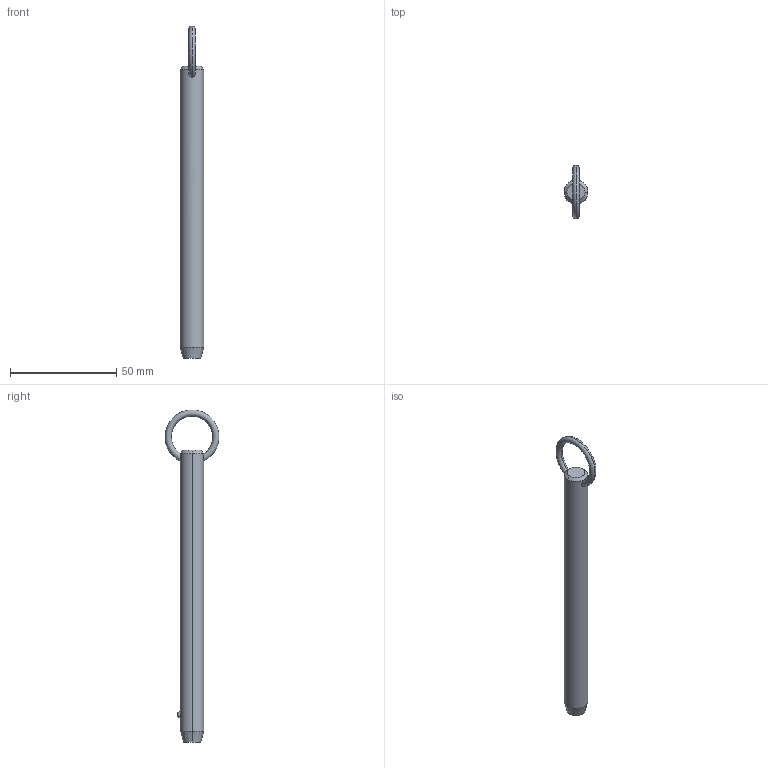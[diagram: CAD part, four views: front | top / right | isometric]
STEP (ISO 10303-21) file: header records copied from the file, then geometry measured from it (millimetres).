
FILE_DESCRIPTION (( 'STEP AP203' ), '1' );
FILE_NAME ('P1250.050-460.step', '2019-07-29T20:37:35', ( '' ), ( '' ), 'SwSTEP 2.0', 'SolidWorks 2017', '' );
FILE_SCHEMA (( 'CONFIG_CONTROL_DESIGN' ));
Length unit declared in the file: millimetre
Products named in the file (1): P1250.050-460
Bounding box: 11.1 x 25.32 x 156.35 mm (x, y, z)
Volume: 13578.8 mm3; surface area: 5444 mm2
Topology: 1 solids, 1 shells, 12 faces, 28 edges, 17 vertices
Faces by surface type: cone 4, torus 2, sphere 2, cylinder 2, plane 2
Entity records: 523 total; most frequent: CARTESIAN_POINT 190, DIRECTION 56, ORIENTED_EDGE 48, AXIS2_PLACEMENT_3D 25, EDGE_CURVE 24, EDGE_LOOP 15, VERTEX_POINT 15, FACE_OUTER_BOUND 12
